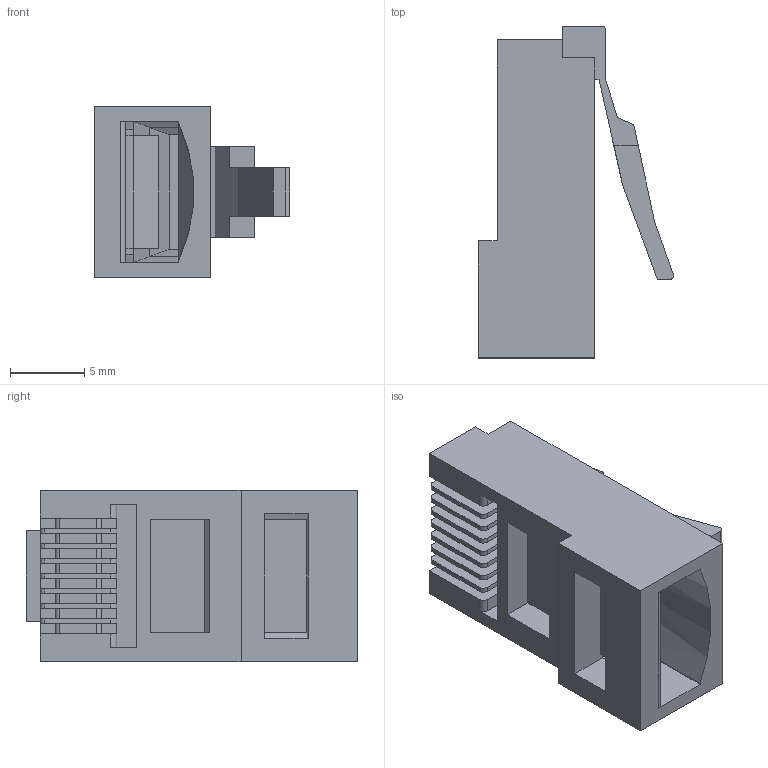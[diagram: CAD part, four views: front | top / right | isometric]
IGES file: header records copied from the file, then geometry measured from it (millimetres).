
Start section:  PTC IGES file: cu_enet_cable_backshell.igs
Global section: file name: cu_enet_cable_backshell.igs; native system: Pro/ENGINEER by Parametric Technology Corporation; preprocessor: 2006080; author: jpearson; organization: Unknown; date: 070621.171134; units: inch
Bounding box: 13.15 x 22.35 x 11.56 mm (x, y, z)
Surface area: 1706.5 mm2 (no closed solid volume)
Topology: 0 solids, 0 shells, 168 faces, 982 edges, 982 vertices
Faces by surface type: bspline 132, revolution 36
